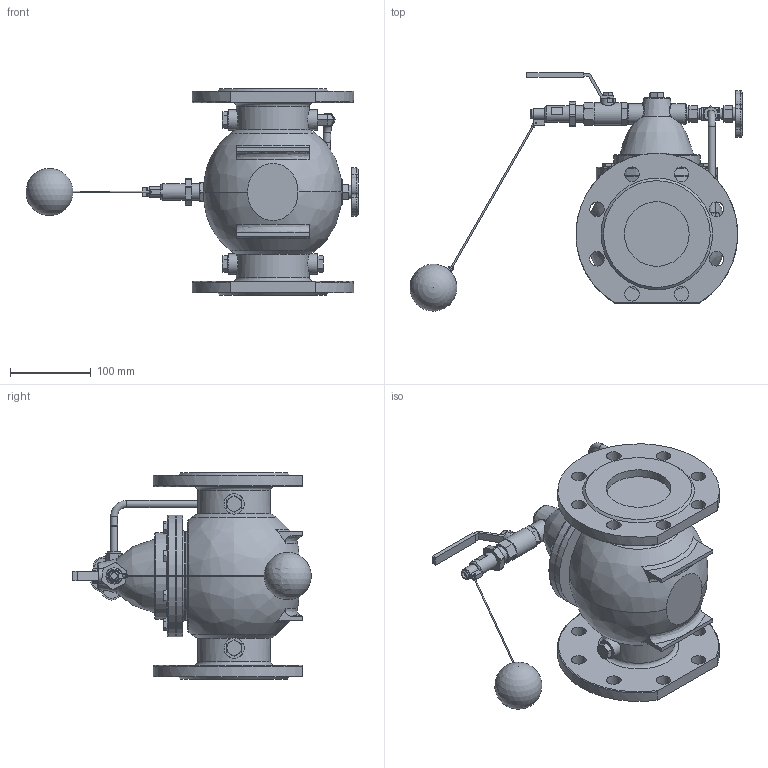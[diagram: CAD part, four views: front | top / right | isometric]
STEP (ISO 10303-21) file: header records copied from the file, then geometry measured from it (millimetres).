
FILE_DESCRIPTION(('STEP AP214'), '1');
FILE_NAME('PVF8-1331RR-F Ðåãóëÿòîð ïèëîòíîãî òèïà ïîïëàâêîâûé DN.ru Äó80 Ðó16', '', ('UNSPECIFIED'), ('UNSPECIFIED'), 'C3D Converter', 'C3D Toolkit', '');
FILE_SCHEMA(('AUTOMOTIVE_DESIGN { 1 0 10303 214 3 1 1}'));
Length unit declared in the file: millimetre
Products named in the file (1): PVF8-1331RR-F
Bounding box: 410.65 x 294.49 x 255 mm (x, y, z)
Volume: 4392816.2 mm3; surface area: 406226.1 mm2
Topology: 1 solids, 4 shells, 821 faces, 1948 edges, 1215 vertices
Faces by surface type: plane 463, cylinder 162, cone 119, torus 31, extrusion 28, bspline 17, sphere 1
Full cylindrical faces by diameter (mm): 2 x3, 4 x1, 6 x1, 7.137 x2, 7.734 x1, 7.925 x1, 8 x9, 9 x12, 9.525 x3, 12 x4, 12.573 x3, 13 x8, 14.254 x3, 14.287 x1, 16 x1, 16.016 x1, 16.967 x3, 18 x19, 18.047 x1, 20 x2, 23.884 x1, 25 x6, 27.496 x1, 80 x4, 90 x2, 100 x1, 106.882 x1, 110 x1, 150 x2
Entity records: 36969 total; most frequent: CARTESIAN_POINT 17048, ORIENTED_EDGE 3636, DIRECTION 3607, EDGE_CURVE 1818, AXIS2_PLACEMENT_3D 1370, VERTEX_POINT 1208, EDGE_LOOP 1080, FACE_BOUND 903
